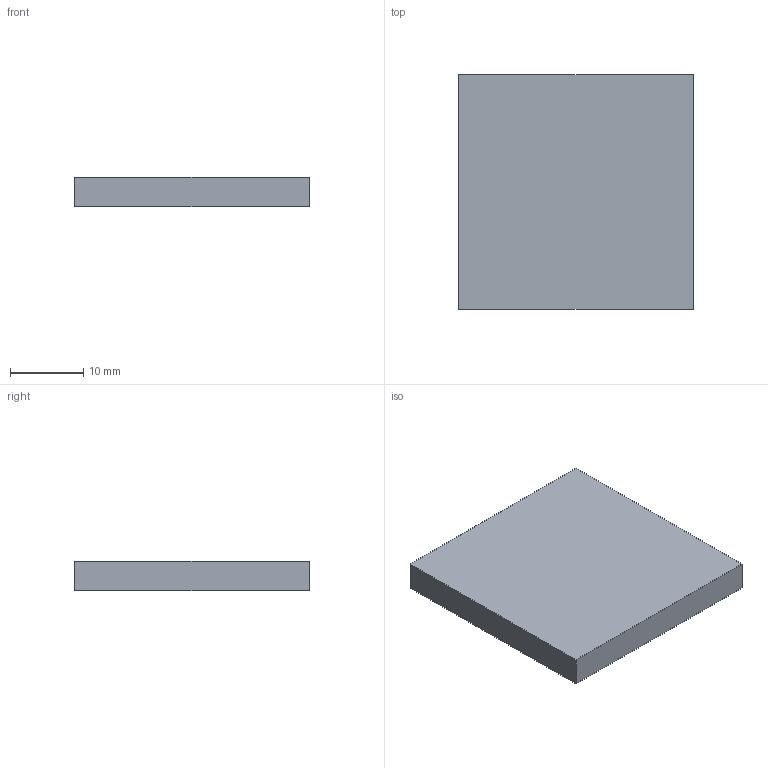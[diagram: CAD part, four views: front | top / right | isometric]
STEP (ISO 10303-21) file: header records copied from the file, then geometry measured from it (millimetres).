
FILE_DESCRIPTION(('Open CASCADE Model'),'2;1');
FILE_NAME('Open CASCADE Shape Model','2026-10-04T01:02:25',('Author'),( 'Open CASCADE'),'Open CASCADE STEP processor 8.0','Open CASCADE 8.0' ,'Unknown');
FILE_SCHEMA(('AUTOMOTIVE_DESIGN { 1 0 10303 214 1 1 1 1 }'));
Length unit declared in the file: millimetre
Products named in the file (1): Open CASCADE STEP translator 8.0 42
Bounding box: 32 x 32 x 4 mm (x, y, z)
Volume: 4096 mm3; surface area: 2560 mm2
Topology: 1 solids, 1 shells, 6 faces, 12 edges, 8 vertices
Faces by surface type: plane 6
Entity records: 322 total; most frequent: CARTESIAN_POINT 51, DIRECTION 50, LINE 36, VECTOR 36, ORIENTED_EDGE 24, PCURVE 24, DEFINITIONAL_REPRESENTATION 24, EDGE_CURVE 12
